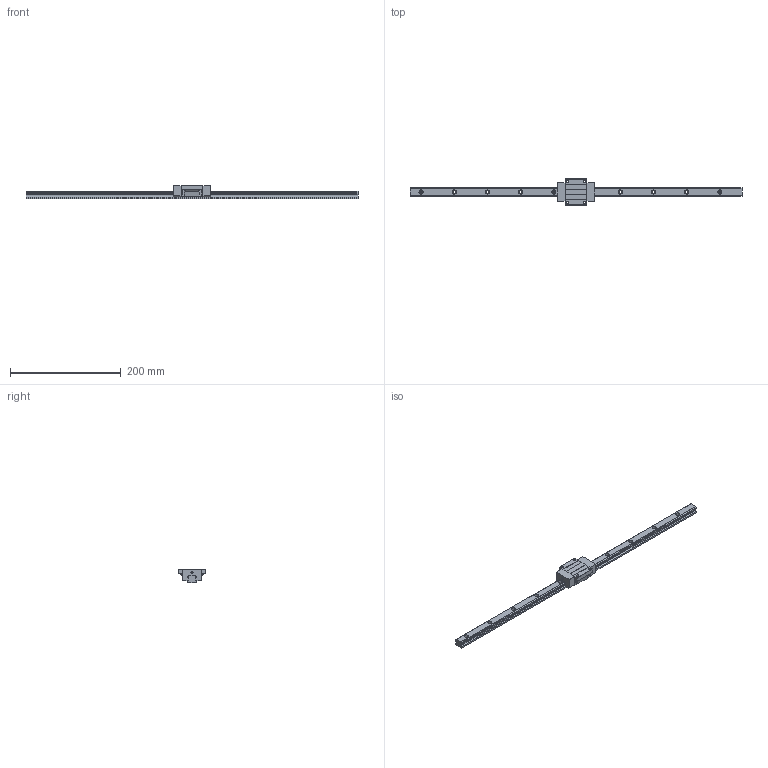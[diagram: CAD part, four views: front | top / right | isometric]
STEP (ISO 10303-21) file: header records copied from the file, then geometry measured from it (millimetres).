
FILE_DESCRIPTION (( 'STEP AP203' ), '1' );
FILE_NAME ('TRH15FN-WW-§ï.STEP', '2023-08-30T01:18:07', ( '' ), ( '' ), 'SwSTEP 2.0', 'SolidWorks 2022', '' );
FILE_SCHEMA (( 'CONFIG_CONTROL_DESIGN' ));
Length unit declared in the file: millimetre
Products named in the file (1): TRH15FN-WW-改
Bounding box: 600 x 47 x 24 mm (x, y, z)
Volume: 142289.1 mm3; surface area: 46710.6 mm2
Topology: 1 solids, 1 shells, 211 faces, 582 edges, 378 vertices
Faces by surface type: cylinder 108, plane 99, sphere 4
Entity records: 7264 total; most frequent: CARTESIAN_POINT 1631, DIRECTION 1186, ORIENTED_EDGE 1156, EDGE_CURVE 578, AXIS2_PLACEMENT_3D 422, VERTEX_POINT 378, VECTOR 342, LINE 342
